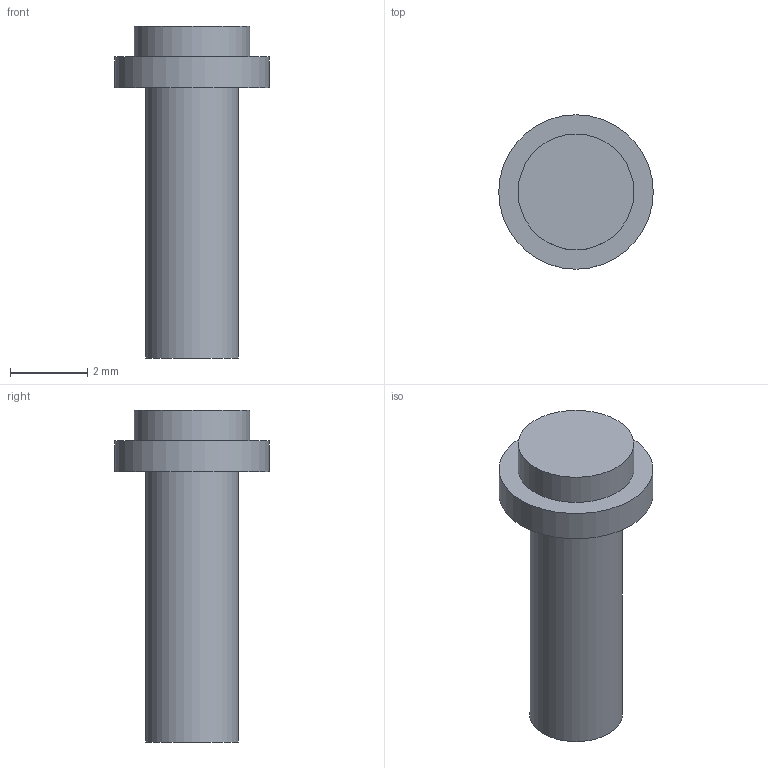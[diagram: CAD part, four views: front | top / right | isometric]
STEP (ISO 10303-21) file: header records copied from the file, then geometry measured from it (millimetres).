
FILE_DESCRIPTION(('Open CASCADE Model'),'2;1');
FILE_NAME('Open CASCADE Shape Model','2026-08-30T14:54:04',('Author'),( 'Open CASCADE'),'Open CASCADE STEP processor 7.9','Open CASCADE 7.9' ,'Unknown');
FILE_SCHEMA(('AUTOMOTIVE_DESIGN { 1 0 10303 214 1 1 1 1 }'));
Length unit declared in the file: millimetre
Products named in the file (1): Open CASCADE STEP translator 7.9 6
Bounding box: 4 x 4 x 8.6 mm (x, y, z)
Volume: 47.4 mm3; surface area: 95.5 mm2
Topology: 1 solids, 1 shells, 7 faces, 9 edges, 6 vertices
Faces by surface type: plane 4, cylinder 3
Full cylindrical faces by diameter (mm): 2.4 x1, 3 x1, 4 x1
Entity records: 282 total; most frequent: CARTESIAN_POINT 53, DIRECTION 47, ORIENTED_EDGE 18, PCURVE 18, DEFINITIONAL_REPRESENTATION 18, LINE 15, VECTOR 15, AXIS2_PLACEMENT_3D 14
